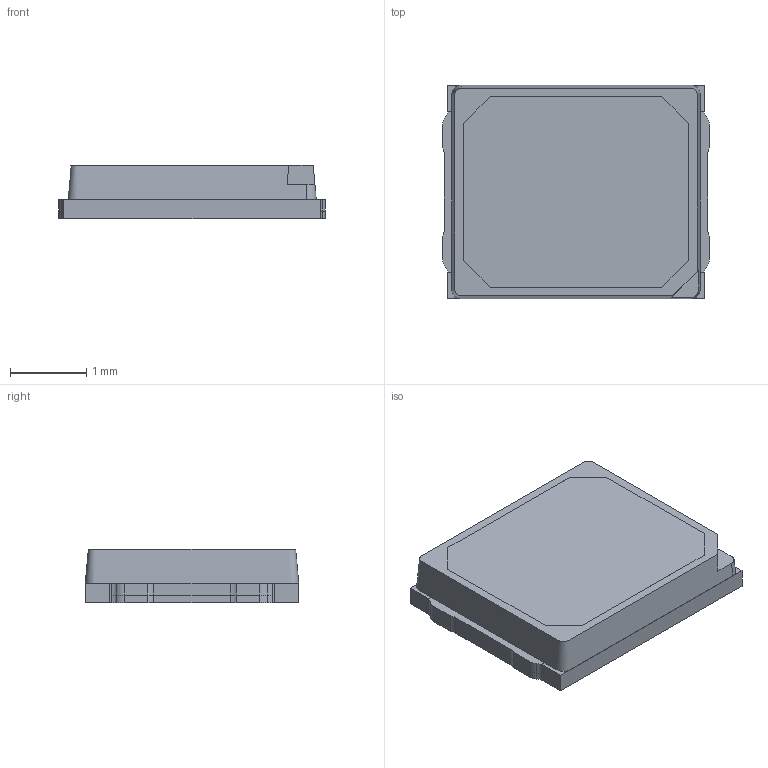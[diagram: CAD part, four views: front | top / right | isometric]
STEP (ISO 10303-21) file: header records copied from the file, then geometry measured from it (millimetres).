
FILE_DESCRIPTION (( 'STEP AP214' ), '1' );
FILE_NAME ('LWG.STEP', '2025-04-26T07:07:12', ( '' ), ( '' ), 'SwSTEP 2.0', 'SolidWorks 2022', '' );
FILE_SCHEMA (( 'AUTOMOTIVE_DESIGN' ));
Length unit declared in the file: millimetre
Products named in the file (1): LWG
Bounding box: 3.5 x 2.8 x 0.7 mm (x, y, z)
Volume: 6.4 mm3; surface area: 64 mm2
Topology: 8 solids, 8 shells, 245 faces, 695 edges, 467 vertices
Faces by surface type: plane 135, cylinder 108, bspline 2
Entity records: 8432 total; most frequent: CARTESIAN_POINT 1644, ORIENTED_EDGE 1390, DIRECTION 1382, EDGE_CURVE 695, VERTEX_POINT 467, VECTOR 462, LINE 462, AXIS2_PLACEMENT_3D 460
